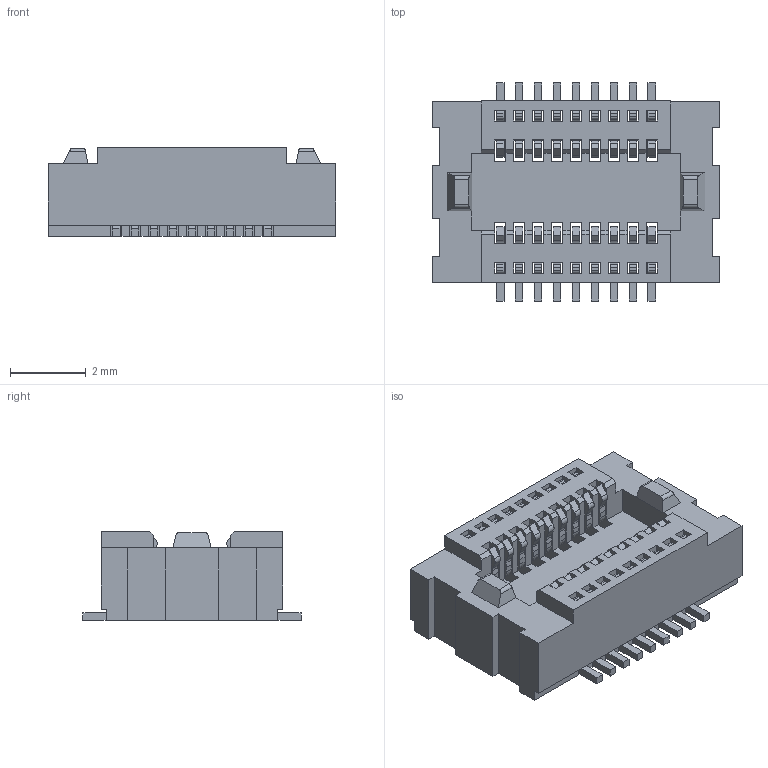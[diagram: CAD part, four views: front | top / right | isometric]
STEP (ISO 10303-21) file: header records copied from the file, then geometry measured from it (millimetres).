
FILE_DESCRIPTION(('CATIA V5 STEP Exchange'),'2;1');
FILE_NAME('F:\黄富鸿\板对板\0.5 单槽\无柱\母座\H2.35\HC-PBB05-1-18-F-H2.35-G1-R-06 (BTB0.5 单槽 母座 立贴 编带)-HCTL.stp','2026-01-21T07:35:07+00:00',('none'),('none'),'CATIA Version 5 Release 20 GA (IN-10)','CATIA V5 STEP AP203','none');
FILE_SCHEMA(('CONFIG_CONTROL_DESIGN'));
Length unit declared in the file: millimetre
Products named in the file (1): Part2
Bounding box: 7.6 x 5.76 x 2.35 mm (x, y, z)
Volume: 58.4 mm3; surface area: 334.3 mm2
Topology: 19 solids, 19 shells, 846 faces, 2582 edges, 1720 vertices
Faces by surface type: plane 590, cylinder 256
Entity records: 24926 total; most frequent: ORIENTED_EDGE 5164, CARTESIAN_POINT 4519, DIRECTION 2850, EDGE_CURVE 2582, VECTOR 2070, LINE 2070, VERTEX_POINT 1720, EDGE_LOOP 864
